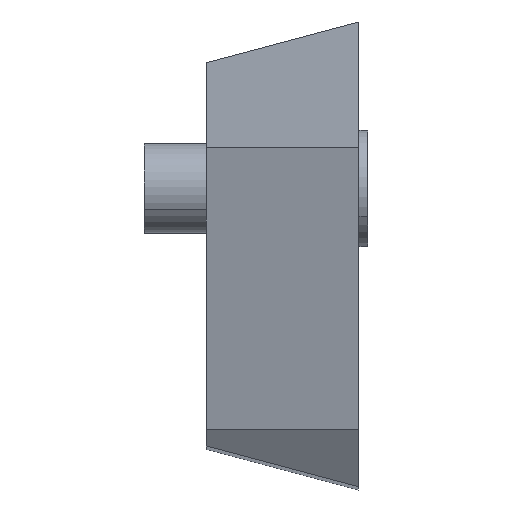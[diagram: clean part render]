
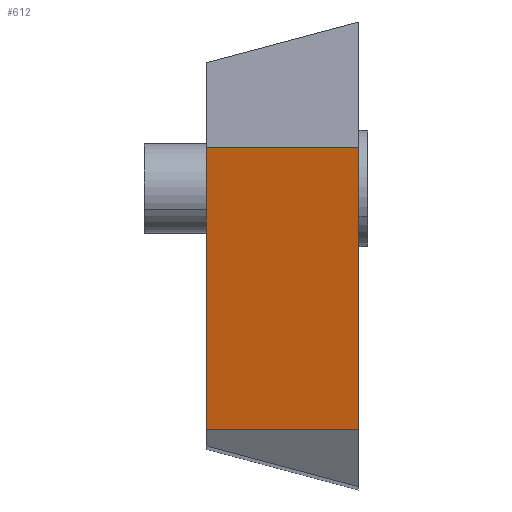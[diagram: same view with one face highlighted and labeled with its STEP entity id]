
A CAD part, top view. The second image highlights one B-rep face of the part: STEP entity #612.
In plain terms, the highlighted planar face has unit normal (0, -0.208, 0.978).
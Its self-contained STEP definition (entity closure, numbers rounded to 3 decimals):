
#585=AXIS2_PLACEMENT_3D('Plane Axis2P3D',#582,#583,#584) ;
#509=CARTESIAN_POINT('Vertex',(0.,18.939,5.418)) ;
#512=CARTESIAN_POINT('Line Origine',(0.,11.064,3.745)) ;
#516=CARTESIAN_POINT('Vertex',(0.,3.189,2.071)) ;
#582=CARTESIAN_POINT('Axis2P3D Location',(-1.5,18.939,5.418)) ;
#587=CARTESIAN_POINT('Line Origine',(-8.5,11.064,3.745)) ;
#591=CARTESIAN_POINT('Vertex',(-8.5,3.189,2.071)) ;
#593=CARTESIAN_POINT('Vertex',(-8.5,18.939,5.418)) ;
#596=CARTESIAN_POINT('Line Origine',(-4.25,3.189,2.071)) ;
#601=CARTESIAN_POINT('Line Origine',(-4.25,18.939,5.418)) ;
#513=DIRECTION('Vector Direction',(0.,0.978,0.208)) ;
#583=DIRECTION('Axis2P3D Direction',(0.,0.208,-0.978)) ;
#584=DIRECTION('Axis2P3D XDirection',(0.,-0.978,-0.208)) ;
#588=DIRECTION('Vector Direction',(0.,-0.978,-0.208)) ;
#597=DIRECTION('Vector Direction',(-1.,0.,0.)) ;
#602=DIRECTION('Vector Direction',(-1.,0.,0.)) ;
#514=VECTOR('Line Direction',#513,1.) ;
#589=VECTOR('Line Direction',#588,1.) ;
#598=VECTOR('Line Direction',#597,1.) ;
#603=VECTOR('Line Direction',#602,1.) ;
#607=ORIENTED_EDGE('',*,*,#595,.F.) ;
#608=ORIENTED_EDGE('',*,*,#600,.F.) ;
#609=ORIENTED_EDGE('',*,*,#518,.T.) ;
#610=ORIENTED_EDGE('',*,*,#605,.T.) ;
#612=ADVANCED_FACE('NO_CUT',(#611),#586,.F.) ;
#518=EDGE_CURVE('',#517,#510,#515,.T.) ;
#595=EDGE_CURVE('',#592,#594,#590,.F.) ;
#600=EDGE_CURVE('',#517,#592,#599,.T.) ;
#605=EDGE_CURVE('',#510,#594,#604,.T.) ;
#606=EDGE_LOOP('',(#607,#608,#609,#610)) ;
#611=FACE_OUTER_BOUND('',#606,.T.) ;
#515=LINE('Line',#512,#514) ;
#590=LINE('Line',#587,#589) ;
#599=LINE('Line',#596,#598) ;
#604=LINE('Line',#601,#603) ;
#586=PLANE('Plane',#585) ;
#510=VERTEX_POINT('',#509) ;
#517=VERTEX_POINT('',#516) ;
#592=VERTEX_POINT('',#591) ;
#594=VERTEX_POINT('',#593) ;
